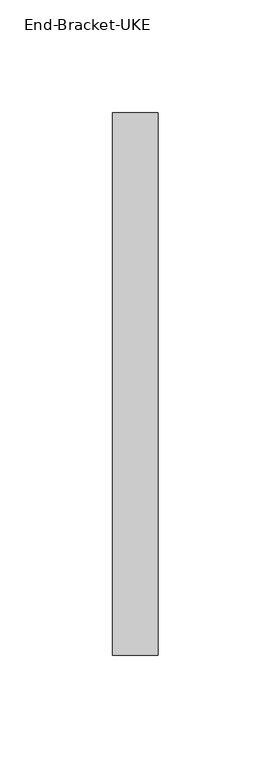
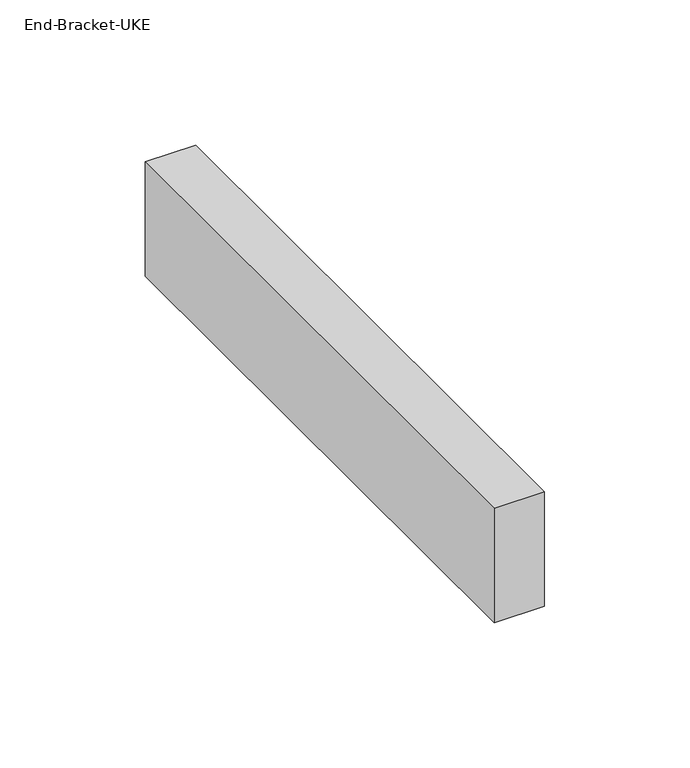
"""IFC4 building model written with IfcOpenShell, lengths in millimetres: cable carrier fitting geometry, Electrical-Installations_Hager_End-Bracket-UKE : End-Bracket-UKE."""

from ifc_helpers import new_model, si_unit, frame, origin, place, context, project, spatial, polyline, outline, extrude, source, transform, mapped, element, save


def end_bracket_uke_49c26a37(model_context):
    return source(origin(), model_context, "Body", "SweptSolid", [
        extrude(outline(polyline([(0.0, -120.0), (0.0, 120.0), (20.0, 120.0), (20.0, -120.0), (0.0, -120.0)])), frame((0.0, 0.0, -24.0), z_axis=(0.0, 0.0, 1.0), x_axis=(1.0, 0.0, 0.0)), (0.0, 0.0, 1.0), 48.0),
    ])


if __name__ == "__main__":
    model = new_model("IFC4")
    model_context = context("Model", 3, world=origin())
    ifc_project = project(units=[si_unit("LENGTHUNIT", "METRE", prefix="MILLI")], contexts=[model_context])
    site = spatial("IfcSite", under=ifc_project)
    building = spatial("IfcBuilding", under=site)
    placement = place(None, origin())
    end_bracket_uke_shape = end_bracket_uke_49c26a37(model_context)
    element("IfcCableCarrierFitting", 1, ObjectType="Electrical-Installations_Hager_End-Bracket-UKE : End-Bracket-UKE", at=placement, inside=building, context=model_context, shape_type="MappedRepresentation", body=[
        mapped(end_bracket_uke_shape, transform((0.0, 0.0, 0.0), x_axis=(1.0, 0.0, 0.0), y_axis=(0.0, 1.0, 0.0), z_axis=(0.0, 0.0, 1.0))),
    ])
    save(model, "model.ifc")
